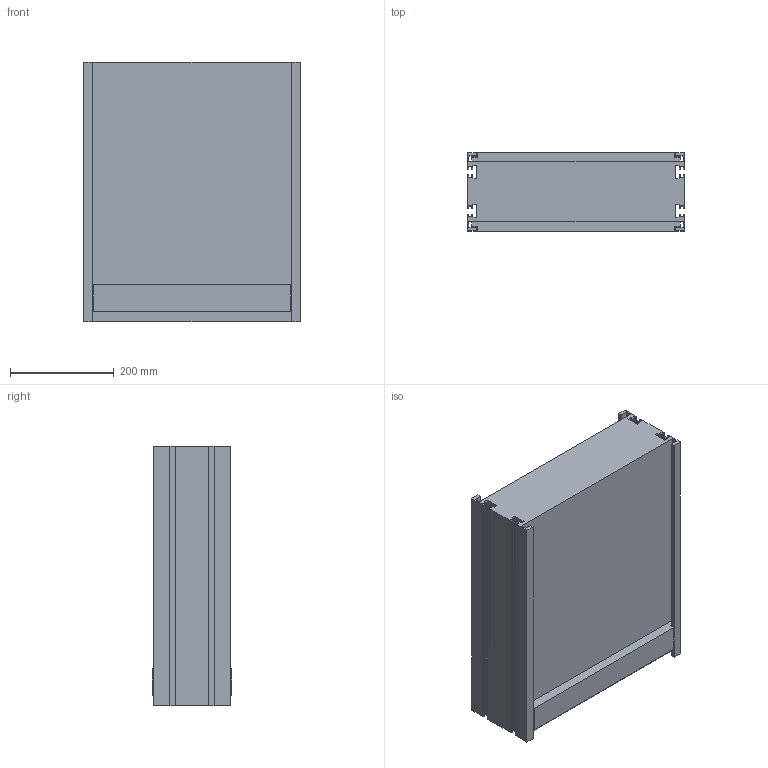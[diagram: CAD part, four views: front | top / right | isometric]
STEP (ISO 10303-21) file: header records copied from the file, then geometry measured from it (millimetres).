
FILE_DESCRIPTION (( 'STEP AP203' ), '1' );
FILE_NAME ('F2-1500-D500.STEP', '2009-01-23T09:39:01', ( 'faber' ), ( '' ), 'SwSTEP 2.0', 'SolidWorks 2008', '' );
FILE_SCHEMA (( 'CONFIG_CONTROL_DESIGN' ));
Length unit declared in the file: millimetre
Products named in the file (3): Tapis_1500; Poutre_1500; F2-1500-D500
Assembly tree (3 placements, depth 2):
  F2-1500-D500
    Tapis_1500  x2
    Poutre_1500
Bounding box: 418 x 152.88 x 500 mm (x, y, z)
Volume: 24377314.2 mm3; surface area: 1036907.4 mm2
Topology: 3 solids, 3 shells, 106 faces, 300 edges, 200 vertices
Faces by surface type: plane 106
Entity records: 3417 total; most frequent: CARTESIAN_POINT 562, ORIENTED_EDGE 552, DIRECTION 480, EDGE_CURVE 276, LINE 276, VECTOR 276, VERTEX_POINT 184, AXIS2_PLACEMENT_3D 102
